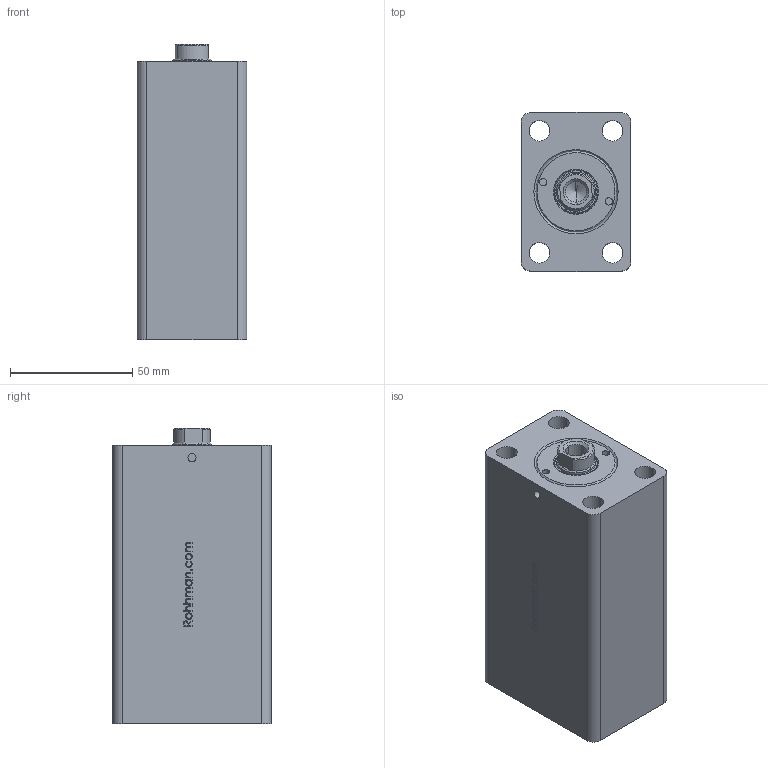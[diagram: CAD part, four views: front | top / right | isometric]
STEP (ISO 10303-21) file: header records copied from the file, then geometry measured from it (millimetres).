
FILE_DESCRIPTION (( 'STEP AP214' ), '1' );
FILE_NAME ('KBZ_02_25_16_70.STEP', '2022-09-03T18:06:40', ( '' ), ( '' ), 'SwSTEP 2.0', 'SolidWorks 2021', '' );
FILE_SCHEMA (( 'AUTOMOTIVE_DESIGN' ));
Length unit declared in the file: millimetre
Products named in the file (9): 16_18_PAP_16_18_5_PAP; K06-16X22_8X3_1X4 (K016_3); KBZ_02_25_25_GOVDE_WEB; KBZ_03_25_16_烰_KAPAK; KBZ_02_25_16_70; KBZ_03_25_16_ON_KAPAK; 16_K_MIL_WEB; KO-22X2_5; K22-16X20_5X5
Assembly tree (8 placements, depth 3):
  KBZ_02_25_16_70
    KBZ_02_25_25_GOVDE_WEB
    16_K_MIL_WEB
    KBZ_03_25_16_烰_KAPAK
      KBZ_03_25_16_ON_KAPAK
      K22-16X20_5X5
      K06-16X22_8X3_1X4 (K016_3)
      KO-22X2_5
      16_18_PAP_16_18_5_PAP
Bounding box: 45 x 65 x 121 mm (x, y, z)
Volume: 285593.5 mm3; surface area: 60602.9 mm2
Topology: 7 solids, 7 shells, 387 faces, 920 edges, 580 vertices
Faces by surface type: bspline 130, plane 117, cylinder 79, cone 53, torus 8
Entity records: 16653 total; most frequent: CARTESIAN_POINT 8020, ORIENTED_EDGE 1836, DIRECTION 1410, EDGE_CURVE 918, VERTEX_POINT 580, AXIS2_PLACEMENT_3D 494, EDGE_LOOP 444, LINE 422
